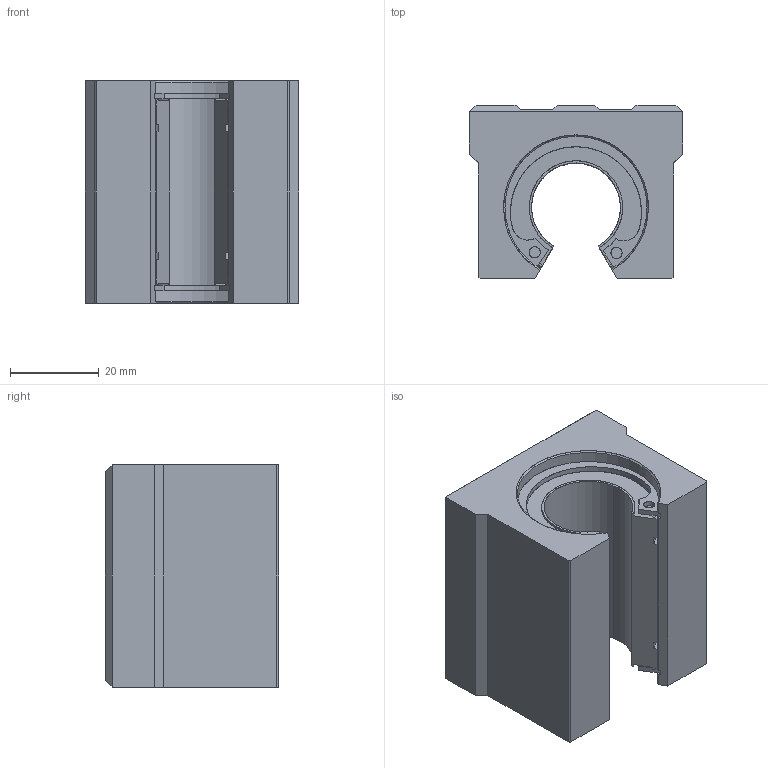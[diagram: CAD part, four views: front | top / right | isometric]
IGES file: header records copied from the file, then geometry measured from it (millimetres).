
Start section: SolidWorks IGES file using analytic representation for surfaces
Global section: file name: C:\Users\User\Desktop\SBR-UU\SBR20UU.IGS; native system: SolidWorks 2016; preprocessor: SolidWorks 2016; author: User; date: 170806.153037; units: millimetre
Bounding box: 48 x 39 x 50 mm (x, y, z)
Surface area: 23766.6 mm2 (no closed solid volume)
Topology: 0 solids, 0 shells, 348 faces, 5894 edges, 6836 vertices
Faces by surface type: bspline 222, revolution 126
